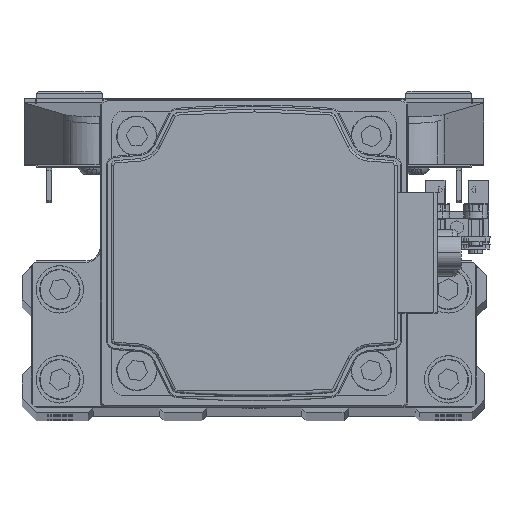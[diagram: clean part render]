
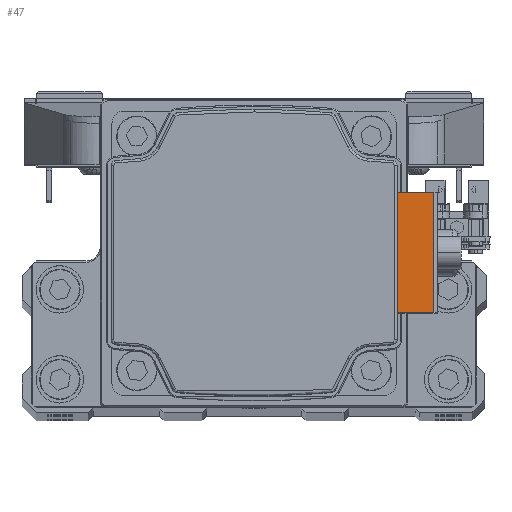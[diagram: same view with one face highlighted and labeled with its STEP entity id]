
A CAD part, top view. The second image highlights one B-rep face of the part: STEP entity #47.
In plain terms, the highlighted planar face has unit normal (0, 0, 1) as drawn and (0, 0, -1) by its records, which use the part's own axes.
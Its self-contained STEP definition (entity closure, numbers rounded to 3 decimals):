
#47 = ADVANCED_FACE ( 'NONE', ( #19899 ), #34618, .T. ) ;
#1116 = ORIENTED_EDGE ( 'NONE', *, *, #27941, .F. ) ;
#1524 = CARTESIAN_POINT ( 'NONE',  ( 0., 37.9, -88.696 ) ) ;
#2522 = AXIS2_PLACEMENT_3D ( 'NONE', #1524, #16257, #31000 ) ;
#3714 = ORIENTED_EDGE ( 'NONE', *, *, #32601, .F. ) ;
#7242 = VERTEX_POINT ( 'NONE', #21487 ) ;
#11594 = LINE ( 'NONE', #26334, #24748 ) ;
#12600 = DIRECTION ( 'NONE',  ( 0., 1., 0. ) ) ;
#14292 = DIRECTION ( 'NONE',  ( 1., 0., 0. ) ) ;
#14536 = LINE ( 'NONE', #29292, #37834 ) ;
#16257 = DIRECTION ( 'NONE',  ( 0., 0., -1. ) ) ;
#19899 = FACE_OUTER_BOUND ( 'NONE', #21868, .T. ) ;
#20090 = ORIENTED_EDGE ( 'NONE', *, *, #45628, .T. ) ;
#21487 = CARTESIAN_POINT ( 'NONE',  ( -12.75, 37.9, -88.696 ) ) ;
#21576 = LINE ( 'NONE', #47426, #46334 ) ;
#21868 = EDGE_LOOP ( 'NONE', ( #20090, #22177, #1116, #3714 ) ) ;
#22177 = ORIENTED_EDGE ( 'NONE', *, *, #31992, .T. ) ;
#24748 = VECTOR ( 'NONE', #41107, 1000. ) ;
#26334 = CARTESIAN_POINT ( 'NONE',  ( 18.438, 30.2, -88.696 ) ) ;
#27941 = EDGE_CURVE ( 'NONE', #45040, #34169, #14536, .T. ) ;
#29292 = CARTESIAN_POINT ( 'NONE',  ( 12.75, 33.991, -88.696 ) ) ;
#30963 = LINE ( 'NONE', #45722, #31402 ) ;
#31000 = DIRECTION ( 'NONE',  ( -1., 0., 0. ) ) ;
#31402 = VECTOR ( 'NONE', #12600, 1000. ) ;
#31992 = EDGE_CURVE ( 'NONE', #7242, #34169, #21576, .T. ) ;
#32601 = EDGE_CURVE ( 'NONE', #35770, #45040, #11594, .T. ) ;
#34169 = VERTEX_POINT ( 'NONE', #36463 ) ;
#34618 = PLANE ( 'NONE',  #2522 ) ;
#35770 = VERTEX_POINT ( 'NONE', #47258 ) ;
#36463 = CARTESIAN_POINT ( 'NONE',  ( 12.75, 37.9, -88.696 ) ) ;
#37834 = VECTOR ( 'NONE', #44056, 1000. ) ;
#41107 = DIRECTION ( 'NONE',  ( 1., 0., 0. ) ) ;
#44056 = DIRECTION ( 'NONE',  ( 0., 1., 0. ) ) ;
#44574 = CARTESIAN_POINT ( 'NONE',  ( 12.75, 30.2, -88.696 ) ) ;
#45040 = VERTEX_POINT ( 'NONE', #44574 ) ;
#45628 = EDGE_CURVE ( 'NONE', #35770, #7242, #30963, .T. ) ;
#45722 = CARTESIAN_POINT ( 'NONE',  ( -12.75, 37.9, -88.696 ) ) ;
#46334 = VECTOR ( 'NONE', #14292, 1000. ) ;
#47258 = CARTESIAN_POINT ( 'NONE',  ( -12.75, 30.2, -88.696 ) ) ;
#47426 = CARTESIAN_POINT ( 'NONE',  ( 0., 37.9, -88.696 ) ) ;
